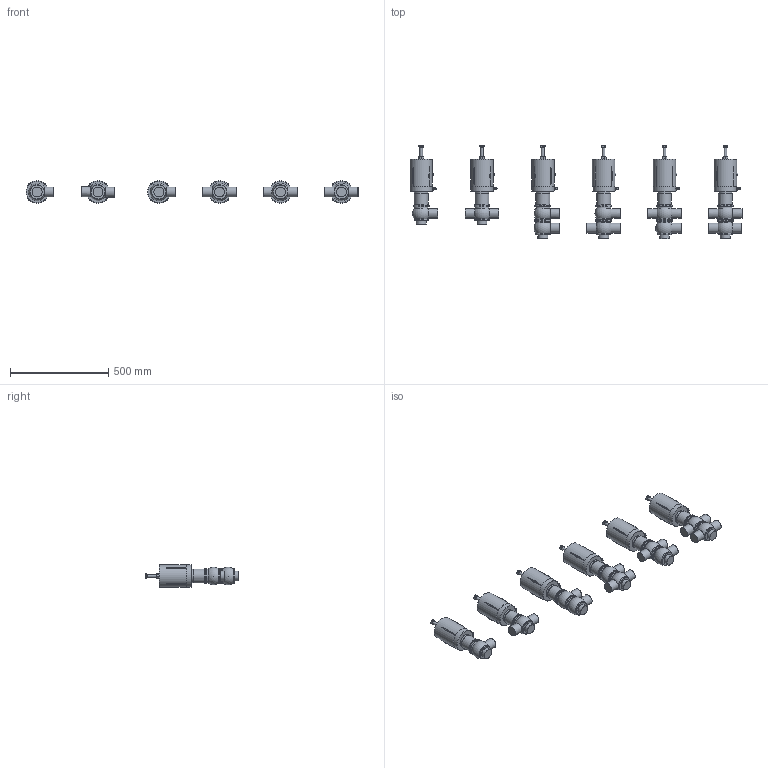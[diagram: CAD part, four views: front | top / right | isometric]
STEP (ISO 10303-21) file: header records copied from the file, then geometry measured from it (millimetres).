
FILE_DESCRIPTION((''),'2;1');
FILE_NAME('\\BV-SRV1\Ufficio tecnico\cad3d\PNEUMATICA\Ing1-1\pne bbzp e derivate\BBZS5\BBZS5-DN0508-CIL108-SAL.iam.step','2009-10-19T10:17:53',(''),(''),'Autodesk Inventor 2010','Autodesk Inventor 2010','');
FILE_SCHEMA(('AUTOMOTIVE_DESIGN { 1 0 10303 214 1 1 1 1 }'));
Length unit declared in the file: millimetre
Products named in the file (7): BBZS5-DN0508-CIL108-SAL; Assemblaggio-DN050; COR-INF-L-SAL-DN50; COR-INF-T-SAL-DN50; COR-SUP-L-SAL-DN50; COR-SUP-T-SAL-DN50; cil 108 tarabile
Assembly tree (22 placements, depth 2):
  BBZS5-DN0508-CIL108-SAL
    Assemblaggio-DN050  x6
    COR-INF-L-SAL-DN50  x3
    COR-INF-T-SAL-DN50  x3
    COR-SUP-L-SAL-DN50  x2
    COR-SUP-T-SAL-DN50  x2
    cil 108 tarabile  x6
Bounding box: 1692.03 x 475.2 x 114.23 mm (x, y, z)
Volume: 17444496.4 mm3; surface area: 1115479.3 mm2
Topology: 28 solids, 28 shells, 1254 faces, 2996 edges, 1785 vertices
Faces by surface type: plane 473, cylinder 283, cone 260, bspline 114, sphere 82, torus 42
Full cylindrical faces by diameter (mm): 4.9 x6, 6 x12, 7 x6, 8.3 x6, 10 x6, 11 x6, 11.5 x6, 14 x6, 19.37 x6, 50.8 x21, 69 x6, 71 x6, 73 x26, 81 x20, 113.5 x6, 114.5 x6
Entity records: 7341 total; most frequent: CARTESIAN_POINT 2093, DIRECTION 1030, ORIENTED_EDGE 898, EDGE_CURVE 449, AXIS2_PLACEMENT_3D 437, EDGE_LOOP 336, VERTEX_POINT 307, FACE_OUTER_BOUND 238
